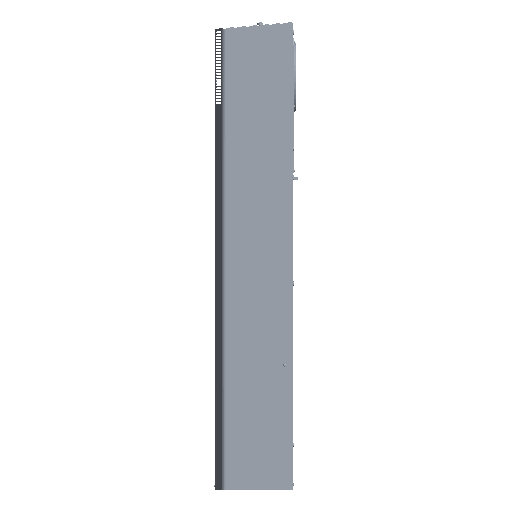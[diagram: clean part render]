
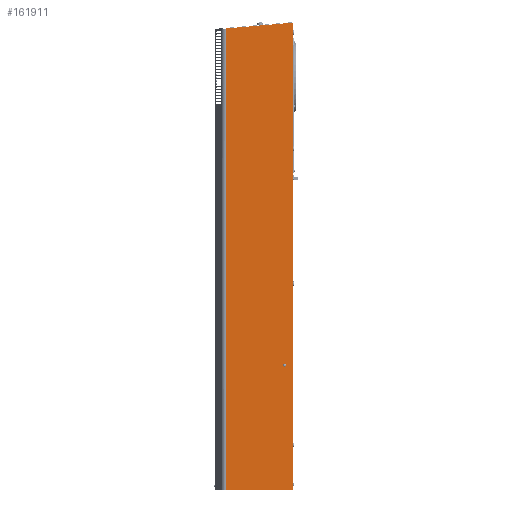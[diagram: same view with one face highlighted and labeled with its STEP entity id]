
A CAD part, left-side view. The second image highlights one B-rep face of the part: STEP entity #161911.
In plain terms, the highlighted planar face has unit normal (-1, 0, 0).
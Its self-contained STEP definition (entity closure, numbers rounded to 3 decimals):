
#1665 = VECTOR ( 'NONE', #118305, 1000. ) ;
#3175 = EDGE_CURVE ( 'NONE', #139537, #163787, #178565, .T. ) ;
#6113 = LINE ( 'NONE', #160398, #1665 ) ;
#7186 = LINE ( 'NONE', #105746, #48675 ) ;
#7322 = CARTESIAN_POINT ( 'NONE',  ( -361.776, -454.184, 2727.296 ) ) ;
#8277 = ORIENTED_EDGE ( 'NONE', *, *, #163181, .F. ) ;
#12431 = CARTESIAN_POINT ( 'NONE',  ( -361.776, -454.184, 2727.296 ) ) ;
#15778 = CARTESIAN_POINT ( 'NONE',  ( -361.776, -425.672, 1488.747 ) ) ;
#20173 = CARTESIAN_POINT ( 'NONE',  ( -361.776, -454.184, 1127.296 ) ) ;
#21109 = CARTESIAN_POINT ( 'NONE',  ( -361.776, -429.184, 1487.296 ) ) ;
#21680 = ORIENTED_EDGE ( 'NONE', *, *, #181462, .F. ) ;
#21949 = DIRECTION ( 'NONE',  ( 0., 0., -1. ) ) ;
#23343 = CARTESIAN_POINT ( 'NONE',  ( -361.776, -430.519, 1490.854 ) ) ;
#26434 = DIRECTION ( 'NONE',  ( 0., 1., 0. ) ) ;
#27320 = VECTOR ( 'NONE', #35353, 1000. ) ;
#27721 = LINE ( 'NONE', #153675, #64898 ) ;
#28325 = AXIS2_PLACEMENT_3D ( 'NONE', #12431, #110213, #26434 ) ;
#29580 = DIRECTION ( 'NONE',  ( 0., 0.315, -0.949 ) ) ;
#29810 = VECTOR ( 'NONE', #173564, 1000. ) ;
#31578 = EDGE_CURVE ( 'NONE', #57757, #164031, #173155, .T. ) ;
#35169 = DIRECTION ( 'NONE',  ( 0., 1., 0. ) ) ;
#35353 = DIRECTION ( 'NONE',  ( 0., 0., -1. ) ) ;
#41806 = ORIENTED_EDGE ( 'NONE', *, *, #152971, .F. ) ;
#45249 = VERTEX_POINT ( 'NONE', #52945 ) ;
#47510 = ORIENTED_EDGE ( 'NONE', *, *, #135295, .T. ) ;
#48675 = VECTOR ( 'NONE', #21949, 1000. ) ;
#48821 = ORIENTED_EDGE ( 'NONE', *, *, #138573, .T. ) ;
#49113 = CARTESIAN_POINT ( 'NONE',  ( -361.776, -429.184, 1487.296 ) ) ;
#52945 = CARTESIAN_POINT ( 'NONE',  ( -361.776, -259.359, 2458.527 ) ) ;
#53985 = AXIS2_PLACEMENT_3D ( 'NONE', #21109, #118895, #35169 ) ;
#57757 = VERTEX_POINT ( 'NONE', #23343 ) ;
#61299 = DIRECTION ( 'NONE',  ( -1., 0., 0. ) ) ;
#61931 = ORIENTED_EDGE ( 'NONE', *, *, #31578, .F. ) ;
#63173 = DIRECTION ( 'NONE',  ( 0., 0., 1. ) ) ;
#64495 = LINE ( 'NONE', #7322, #27320 ) ;
#64539 = EDGE_CURVE ( 'NONE', #93936, #174352, #27721, .T. ) ;
#64898 = VECTOR ( 'NONE', #125611, 1000. ) ;
#65963 = CIRCLE ( 'NONE', #128975, 3.8 ) ;
#72243 = LINE ( 'NONE', #140836, #142214 ) ;
#76612 = CARTESIAN_POINT ( 'NONE',  ( -361.776, -429.184, 1487.296 ) ) ;
#79513 = CARTESIAN_POINT ( 'NONE',  ( -361.776, -259.359, 1127.296 ) ) ;
#88153 = EDGE_CURVE ( 'NONE', #164320, #93936, #178772, .T. ) ;
#90559 = CARTESIAN_POINT ( 'NONE',  ( -361.776, -430.303, 1489.808 ) ) ;
#90714 = DIRECTION ( 'NONE',  ( 0., 0., 1. ) ) ;
#92906 = ORIENTED_EDGE ( 'NONE', *, *, #64539, .T. ) ;
#93936 = VERTEX_POINT ( 'NONE', #90559 ) ;
#100530 = VERTEX_POINT ( 'NONE', #111319 ) ;
#105746 = CARTESIAN_POINT ( 'NONE',  ( -361.776, -259.359, 2727.296 ) ) ;
#110213 = DIRECTION ( 'NONE',  ( 1., 0., 0. ) ) ;
#111319 = CARTESIAN_POINT ( 'NONE',  ( -361.776, -432.696, 1485.845 ) ) ;
#118305 = DIRECTION ( 'NONE',  ( 0., 0.996, -0.087 ) ) ;
#118895 = DIRECTION ( 'NONE',  ( 1., 0., 0. ) ) ;
#119550 = EDGE_LOOP ( 'NONE', ( #173686, #92906, #21680, #8277, #61931, #140659 ) ) ;
#121634 = CARTESIAN_POINT ( 'NONE',  ( -361.776, -454.184, 1127.296 ) ) ;
#125611 = DIRECTION ( 'NONE',  ( 0., -0.315, 0.949 ) ) ;
#128975 = AXIS2_PLACEMENT_3D ( 'NONE', #145018, #61299, #158985 ) ;
#134701 = CARTESIAN_POINT ( 'NONE',  ( -361.776, -430.188, 1489.856 ) ) ;
#135295 = EDGE_CURVE ( 'NONE', #177105, #45249, #6113, .T. ) ;
#138573 = EDGE_CURVE ( 'NONE', #45249, #139537, #7186, .T. ) ;
#139537 = VERTEX_POINT ( 'NONE', #79513 ) ;
#140659 = ORIENTED_EDGE ( 'NONE', *, *, #167192, .T. ) ;
#140836 = CARTESIAN_POINT ( 'NONE',  ( -361.776, -802.368, 2611.793 ) ) ;
#142214 = VECTOR ( 'NONE', #29580, 1000. ) ;
#145018 = CARTESIAN_POINT ( 'NONE',  ( -361.776, -429.184, 1487.296 ) ) ;
#146852 = DIRECTION ( 'NONE',  ( -1., 0., 0. ) ) ;
#152971 = EDGE_CURVE ( 'NONE', #177105, #163787, #64495, .T. ) ;
#153675 = CARTESIAN_POINT ( 'NONE',  ( -361.776, -430.635, 1490.808 ) ) ;
#158985 = DIRECTION ( 'NONE',  ( 0., 0., 1. ) ) ;
#160398 = CARTESIAN_POINT ( 'NONE',  ( -361.776, -464.296, 2476.457 ) ) ;
#161911 = ADVANCED_FACE ( 'NONE', ( #174631, #170213 ), #179852, .F. ) ;
#162133 = AXIS2_PLACEMENT_3D ( 'NONE', #76612, #174379, #90714 ) ;
#163181 = EDGE_CURVE ( 'NONE', #164031, #100530, #176383, .T. ) ;
#163787 = VERTEX_POINT ( 'NONE', #121634 ) ;
#164031 = VERTEX_POINT ( 'NONE', #15778 ) ;
#164320 = VERTEX_POINT ( 'NONE', #134701 ) ;
#165444 = ORIENTED_EDGE ( 'NONE', *, *, #3175, .T. ) ;
#167192 = EDGE_CURVE ( 'NONE', #57757, #164320, #72243, .T. ) ;
#167735 = AXIS2_PLACEMENT_3D ( 'NONE', #49113, #146852, #63173 ) ;
#170213 = FACE_OUTER_BOUND ( 'NONE', #177138, .T. ) ;
#170419 = CARTESIAN_POINT ( 'NONE',  ( -361.776, -430.635, 1490.808 ) ) ;
#173155 = CIRCLE ( 'NONE', #162133, 3.8 ) ;
#173564 = DIRECTION ( 'NONE',  ( 0., -1., 0. ) ) ;
#173686 = ORIENTED_EDGE ( 'NONE', *, *, #88153, .T. ) ;
#174352 = VERTEX_POINT ( 'NONE', #170419 ) ;
#174379 = DIRECTION ( 'NONE',  ( -1., 0., 0. ) ) ;
#174631 = FACE_BOUND ( 'NONE', #119550, .T. ) ;
#176383 = CIRCLE ( 'NONE', #167735, 3.8 ) ;
#177105 = VERTEX_POINT ( 'NONE', #180766 ) ;
#177138 = EDGE_LOOP ( 'NONE', ( #47510, #48821, #165444, #41806 ) ) ;
#178565 = LINE ( 'NONE', #20173, #29810 ) ;
#178772 = CIRCLE ( 'NONE', #53985, 2.75 ) ;
#179852 = PLANE ( 'NONE',  #28325 ) ;
#180766 = CARTESIAN_POINT ( 'NONE',  ( -361.776, -454.184, 2475.572 ) ) ;
#181462 = EDGE_CURVE ( 'NONE', #100530, #174352, #65963, .T. ) ;
